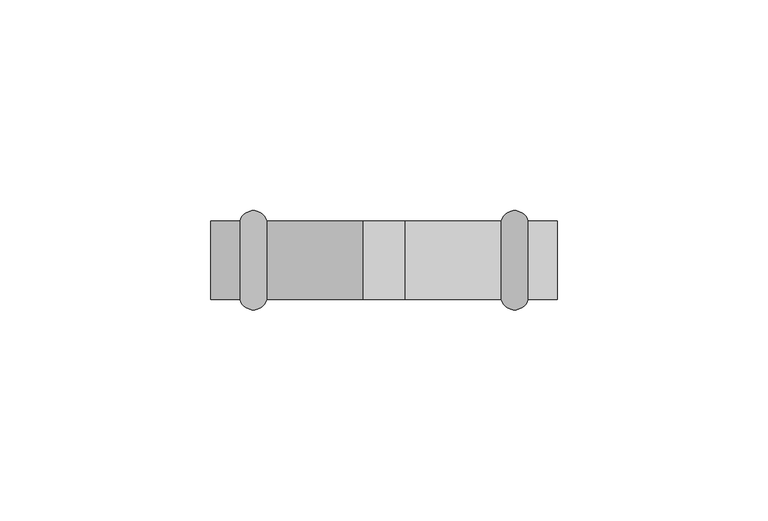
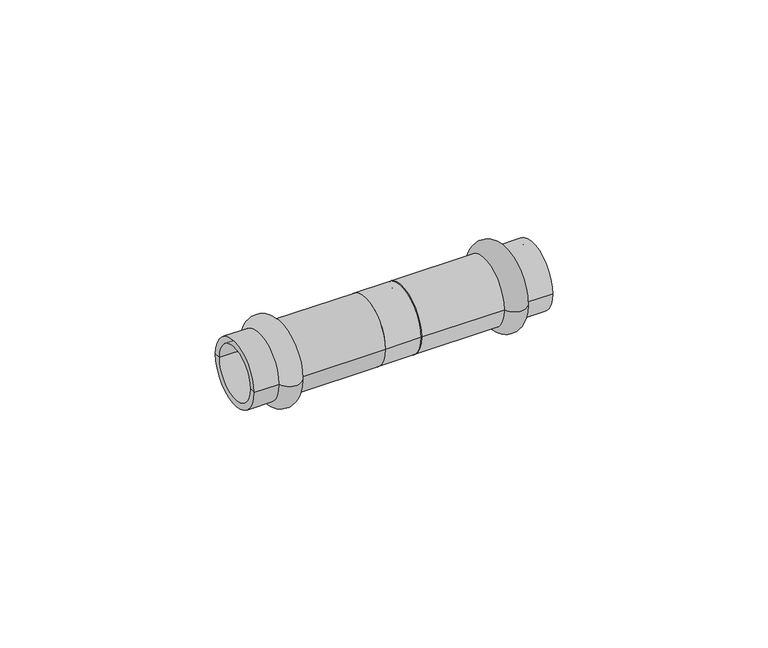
"""IFC4 building model written with IfcOpenShell, lengths in millimetres: pipe fitting geometry, VALTEC_VTi.904.I_Удлинитель_Нержавеющая сталь : VTi.904.I."""

import ifcopenshell
import ifcopenshell.guid

model = None  # the IFC model being written
_history = None  # IfcOwnerHistory: only IFC2X3 demands one
_inside = {}  # id of a spatial element -> (the spatial element, [elements in it])
_under = {}  # id of a project, library or spatial element -> (it, [spatial elements below it])
_declared = {}  # id of a project -> (the project, [libraries it declares])
_typed = {}  # id of a type object -> (the type object, [elements of that type])
_made_of = {}  # id of a material, layer set ... -> (it, [elements and type objects made of it])


def new_model(schema):
    """Start an empty IFC model of exactly this schema.

    Asked for "IFC4X3", IfcOpenShell would pick the latest addendum, in which some entities
    have other attributes; the version numbers below select the first issue.
    IFC2X3 requires an IfcOwnerHistory on every rooted entity: one is made here for all.
    """
    global model, _history
    if schema == "IFC4X3":
        model = ifcopenshell.file(schema_version=(4, 3, 0, 0))
    else:
        model = ifcopenshell.file(schema=schema)
    _inside.clear()
    _under.clear()
    _declared.clear()
    _typed.clear()
    _made_of.clear()
    _history = None
    if model.schema == "IFC2X3":
        org = make("IfcOrganization", Name="unknown")
        user = make(
            "IfcPersonAndOrganization",
            ThePerson=make("IfcPerson", FamilyName="unknown"),
            TheOrganization=org,
        )
        app = make(
            "IfcApplication",
            ApplicationDeveloper=org,
            Version="unknown",
            ApplicationFullName="unknown",
            ApplicationIdentifier="unknown",
        )
        _history = make(
            "IfcOwnerHistory",
            OwningUser=user,
            OwningApplication=app,
            ChangeAction="ADDED",
            CreationDate=0,
        )
    return model


def make(cls, **values):
    """One entity of the class cls with the attributes given. An attribute that is None is left unset."""
    return model.create_entity(
        cls, **{name: value for name, value in values.items() if value is not None}
    )


def rooted(cls, **values):
    """An entity with a GlobalId (a new one), such as an element, a storey or a relation."""
    return make(cls, GlobalId=ifcopenshell.guid.new(), OwnerHistory=_history, **values)


def si_unit(unit_type, name, prefix=None):
    """IfcSIUnit, for example si_unit("LENGTHUNIT", "METRE", prefix="MILLI")."""
    return make("IfcSIUnit", UnitType=unit_type, Prefix=prefix, Name=name)


def assignment(units):
    """IfcUnitAssignment: the units of a project."""
    return None if units is None else make("IfcUnitAssignment", Units=units)


def point(xyz):
    """IfcCartesianPoint."""
    return None if xyz is None else make("IfcCartesianPoint", Coordinates=xyz)


def direction(xyz):
    """IfcDirection."""
    return None if xyz is None else make("IfcDirection", DirectionRatios=xyz)


def frame(location, z_axis=None, x_axis=None):
    """IfcAxis2Placement3D, a coordinate frame: its origin and axes. An axis left out is left unset."""
    return make(
        "IfcAxis2Placement3D",
        Location=point(location),
        Axis=direction(z_axis),
        RefDirection=direction(x_axis),
    )


def frame_2d(location, x_axis=None):
    """IfcAxis2Placement2D, a coordinate frame in the plane: its origin and x axis."""
    return make(
        "IfcAxis2Placement2D", Location=point(location), RefDirection=direction(x_axis)
    )


def origin():
    """The frame at (0, 0, 0) with its axes left unset."""
    return frame((0.0, 0.0, 0.0))


def origin_2d():
    """The frame at (0, 0) in the plane with its x axis left unset."""
    return frame_2d((0.0, 0.0))


def place(relative_to, where):
    """IfcLocalPlacement: puts the frame where relative to a parent placement (None: the world)."""
    return make(
        "IfcLocalPlacement", PlacementRelTo=relative_to, RelativePlacement=where
    )


def context(
    kind, dimensions, precision=None, world=None, true_north=None, identifier=None
):
    """IfcGeometricRepresentationContext, for example the 3D "Model" context."""
    return make(
        "IfcGeometricRepresentationContext",
        ContextIdentifier=identifier,
        ContextType=kind,
        CoordinateSpaceDimension=dimensions,
        Precision=precision,
        WorldCoordinateSystem=world,
        TrueNorth=true_north,
    )


def project(units=None, contexts=None):
    """IfcProject with its units and contexts."""
    return rooted(
        "IfcProject",
        Name="project",
        RepresentationContexts=contexts,
        UnitsInContext=assignment(units),
    )


def spatial(cls, under=None, at=None, **own):
    """A site, building, storey or space (cls), placed at a placement, below another one or the project."""
    s = rooted(cls, ObjectPlacement=at, **own)
    if under is not None:
        _under.setdefault(under.id(), (under, []))[1].append(s)
    return s


def polyline(points):
    """IfcPolyline through the points."""
    return make("IfcPolyline", Points=[point(p) for p in points])


def circle_curve(where, radius):
    """IfcCircle in the frame where."""
    return make("IfcCircle", Position=where, Radius=radius)


def ellipse_curve(where, semi_axis1, semi_axis2):
    """IfcEllipse in the frame where."""
    return make(
        "IfcEllipse", Position=where, SemiAxis1=semi_axis1, SemiAxis2=semi_axis2
    )


def trimmed(basis, trim1, trim2, sense, master):
    """IfcTrimmedCurve: the piece of a basis curve between two trims."""
    return make(
        "IfcTrimmedCurve",
        BasisCurve=basis,
        Trim1=trim1,
        Trim2=trim2,
        SenseAgreement=sense,
        MasterRepresentation=master,
    )


def segment(curve, same_sense, transition):
    """IfcCompositeCurveSegment."""
    return make(
        "IfcCompositeCurveSegment",
        Transition=transition,
        SameSense=same_sense,
        ParentCurve=curve,
    )


def composite_curve(segments, self_intersect=None):
    """IfcCompositeCurve: segments joined end to end."""
    return make("IfcCompositeCurve", Segments=segments, SelfIntersect=self_intersect)


def outline(outer, holes=None, kind="AREA"):
    """IfcArbitraryClosedProfileDef: a profile drawn as a closed curve; with holes, ...WithVoids."""
    if holes is None:
        return make("IfcArbitraryClosedProfileDef", ProfileType=kind, OuterCurve=outer)
    return make(
        "IfcArbitraryProfileDefWithVoids",
        ProfileType=kind,
        OuterCurve=outer,
        InnerCurves=holes,
    )


def extrude(swept, where, along, depth):
    """IfcExtrudedAreaSolid: the profile swept, set in the frame where, extruded along a direction by depth."""
    return make(
        "IfcExtrudedAreaSolid",
        SweptArea=swept,
        Position=where,
        ExtrudedDirection=direction(along),
        Depth=depth,
    )


def shape(context_of_items, identifier, shape_type, items):
    """IfcShapeRepresentation: the items that make up one representation, for example the "Body"."""
    return make(
        "IfcShapeRepresentation",
        ContextOfItems=context_of_items,
        RepresentationIdentifier=identifier,
        RepresentationType=shape_type,
        Items=items,
    )


def source(mapping_origin, context_of_items, identifier, shape_type, items):
    """IfcRepresentationMap: a shape defined once, which mapped items show again and again."""
    return make(
        "IfcRepresentationMap",
        MappingOrigin=mapping_origin,
        MappedRepresentation=shape(context_of_items, identifier, shape_type, items),
    )


def transform(
    local_origin,
    x_axis=None,
    y_axis=None,
    z_axis=None,
    scale=None,
    scale2=None,
    scale3=None,
    uniform=True,
):
    """IfcCartesianTransformationOperator3D, or its non-uniform kind. x_axis, y_axis, z_axis: its Axis1, 2, 3."""
    if uniform:
        return make(
            "IfcCartesianTransformationOperator3D",
            Axis1=direction(x_axis),
            Axis2=direction(y_axis),
            LocalOrigin=point(local_origin),
            Scale=scale,
            Axis3=direction(z_axis),
        )
    return make(
        "IfcCartesianTransformationOperator3DnonUniform",
        Axis1=direction(x_axis),
        Axis2=direction(y_axis),
        LocalOrigin=point(local_origin),
        Scale=scale,
        Axis3=direction(z_axis),
        Scale2=scale2,
        Scale3=scale3,
    )


def mapped(mapping_source, mapping_target):
    """IfcMappedItem: shows the shape of a source again, moved by a transform."""
    return make(
        "IfcMappedItem", MappingSource=mapping_source, MappingTarget=mapping_target
    )


def made_of(thing, what):
    """Note that an element or type object is made of a material, layer set ...; save() writes the relation."""
    if what is not None:
        _made_of.setdefault(what.id(), (what, []))[1].append(thing)
    return thing


def element(
    cls,
    number,
    at=None,
    inside=None,
    cuts=None,
    type_object=None,
    material=None,
    context=None,
    identifier="Body",
    shape_type=None,
    held_by="IfcProductDefinitionShape",
    body=None,
    shapes=None,
    **own,
):
    """One element of the class cls, such as IfcWall. Its Tag is "e" and its number.

    at: its placement. inside: the storey or other place that contains it. cuts: it is an
    opening in that element (IfcRelVoidsElement). A single representation is given by context,
    identifier, shape_type and body (its items); several are given by shapes. held_by: the class
    of the entity that holds the representations. save() writes the other relations.
    """
    e = rooted(cls, Tag="e%d" % number, ObjectPlacement=at, **own)
    if body is not None:
        shapes = [shape(context, identifier, shape_type, body)]
    if shapes is not None:
        e.Representation = make(held_by, Representations=shapes)
    if inside is not None:
        _inside.setdefault(inside.id(), (inside, []))[1].append(e)
    if cuts is not None:
        rooted(
            "IfcRelVoidsElement", RelatingBuildingElement=cuts, RelatedOpeningElement=e
        )
    if type_object is not None:
        _typed.setdefault(type_object.id(), (type_object, []))[1].append(e)
    return made_of(e, material)


def aggregate(whole, parts):
    """IfcRelAggregates: a whole, such as a stair, and the parts it consists of."""
    return rooted("IfcRelAggregates", RelatingObject=whole, RelatedObjects=parts)


def save(model, path):
    """Write the relations noted so far, then the file.

    IfcRelAggregates (storeys below a building ...), IfcRelContainedInSpatialStructure (elements
    in a storey), IfcRelDefinesByType, IfcRelAssociatesMaterial and IfcRelDeclares: one each for
    every whole, place, type object, material and project.
    """
    for whole, parts in _under.values():
        aggregate(whole, parts)
    for where, things in _inside.values():
        rooted(
            "IfcRelContainedInSpatialStructure",
            RelatedElements=things,
            RelatingStructure=where,
        )
    for kind, things in _typed.values():
        rooted("IfcRelDefinesByType", RelatedObjects=things, RelatingType=kind)
    for what, things in _made_of.values():
        rooted("IfcRelAssociatesMaterial", RelatedObjects=things, RelatingMaterial=what)
    for by, libraries in _declared.values():
        rooted("IfcRelDeclares", RelatingContext=by, RelatedDefinitions=libraries)
    model.write(path)


def plane_surface(at):
    """IfcPlane: the flat surface through the origin of the frame at, square to its z axis."""
    return make("IfcPlane", Position=at)


def cylinder_surface(at, radius):
    """IfcCylindricalSurface: all points at the distance radius from the z axis of the frame at."""
    return make("IfcCylindricalSurface", Position=at, Radius=radius)


def revolved_surface(curve, axis_point, axis_direction):
    """IfcSurfaceOfRevolution: the curve turned about the line through axis_point along axis_direction."""
    return make(
        "IfcSurfaceOfRevolution",
        SweptCurve=make("IfcArbitraryOpenProfileDef", ProfileType="CURVE", Curve=curve),
        AxisPosition=make("IfcAxis1Placement", Location=point(axis_point), Axis=direction(axis_direction)),
    )


def advanced_brep(points, edges, surfaces, faces):
    """IfcAdvancedBrep: a solid bounded by faces that lie on surfaces and meet in shared edges.

    An edge is (start, end): straight between two places in points (the first is 0);
    or (start, end, curve); or (start, end, curve, False) where it runs against its curve.
    A face is (place in surfaces, loops), or (place, loops, False) where it looks against
    its surface's normal. A loop lists edges by number (the first is 1), with a minus sign
    where the edge is run from its end to its start. The first loop is the outer one.
    """
    corners = [point(p) for p in points]
    vertices = [make("IfcVertexPoint", VertexGeometry=c) for c in corners]
    made = []
    for start, end, *more in edges:
        made.append(
            make(
                "IfcEdgeCurve",
                EdgeStart=vertices[start],
                EdgeEnd=vertices[end],
                EdgeGeometry=more[0] if more else make("IfcPolyline", Points=[corners[start], corners[end]]),
                SameSense=more[1] if len(more) > 1 else True,
            )
        )
    hull = []
    for where, loops, *sense in faces:
        bounds = []
        for j, loop in enumerate(loops):
            ring = [make("IfcOrientedEdge", EdgeElement=made[abs(k) - 1], Orientation=k > 0) for k in loop]
            bounds.append(
                make(
                    "IfcFaceOuterBound" if j == 0 else "IfcFaceBound",
                    Bound=make("IfcEdgeLoop", EdgeList=ring),
                    Orientation=True,
                )
            )
        hull.append(make("IfcAdvancedFace", Bounds=bounds, FaceSurface=surfaces[where], SameSense=sense[0] if sense else True))
    return make("IfcAdvancedBrep", Outer=make("IfcClosedShell", CfsFaces=hull))


def pipe_fitting_fd4802b1(model_context):
    return source(origin(), model_context, "Body", "SolidModel", [
        advanced_brep(
        [(34.1122777, -9.25, 0.0), (27.7877223, -9.25, 0.0), (27.7877223, 9.25, 0.0), (34.1122777, 9.25, 0.0), (41.0, -9.25, 0.0), (41.0, 9.25, 0.0), (41.0, -7.5, 0.0), (41.0, 7.5, 0.0), (5.0, -7.5, 0.0), (5.0, 7.5, 0.0), (5.0, -9.25, 0.0), (5.0, 9.25, 0.0)],
        [
            (0, 1, circle_curve(frame((30.95, -8.5, 0.0), z_axis=(0.0, 0.0, -1.0), x_axis=(-1.0, 0.0, 0.0)), 3.25)),
            (1, 2, circle_curve(frame((27.7877223, 0.0, 0.0), z_axis=(1.0, 0.0, 0.0), x_axis=(0.0, 1.0, 0.0)), 9.25)),
            (2, 3, circle_curve(frame((30.95, 8.5, 0.0), z_axis=(0.0, 0.0, -1.0), x_axis=(-1.0, 0.0, 0.0)), 3.25)),
            (3, 0, circle_curve(frame((34.1122777, 0.0, 0.0), z_axis=(-1.0, 0.0, 0.0), x_axis=(0.0, 1.0, 0.0)), 9.25)),
            (2, 1, circle_curve(frame((27.7877223, 0.0, 0.0), z_axis=(1.0, 0.0, 0.0), x_axis=(0.0, 1.0, 0.0)), 9.25)),
            (0, 3, circle_curve(frame((34.1122777, 0.0, 0.0), z_axis=(-1.0, 0.0, 0.0), x_axis=(0.0, 1.0, 0.0)), 9.25)),
            (4, 0),
            (3, 5),
            (5, 4, circle_curve(frame((41.0, 0.0, 0.0), z_axis=(-1.0, 0.0, 0.0), x_axis=(0.0, 1.0, 0.0)), 9.25)),
            (4, 5, circle_curve(frame((41.0, 0.0, 0.0), z_axis=(-1.0, 0.0, 0.0), x_axis=(0.0, 1.0, 0.0)), 9.25)),
            (6, 4),
            (5, 7),
            (7, 6, circle_curve(frame((41.0, 0.0, 0.0), z_axis=(-1.0, 0.0, 0.0), x_axis=(0.0, 1.0, 0.0)), 7.5)),
            (6, 7, circle_curve(frame((41.0, 0.0, 0.0), z_axis=(-1.0, 0.0, 0.0), x_axis=(0.0, 1.0, 0.0)), 7.5)),
            (8, 6),
            (7, 9),
            (9, 8, circle_curve(frame((5.0, 0.0, 0.0), z_axis=(-1.0, 0.0, 0.0), x_axis=(0.0, 1.0, 0.0)), 7.5)),
            (8, 9, circle_curve(frame((5.0, 0.0, 0.0), z_axis=(-1.0, 0.0, 0.0), x_axis=(0.0, 1.0, 0.0)), 7.5)),
            (10, 8),
            (9, 11),
            (11, 10, circle_curve(frame((5.0, 0.0, 0.0), z_axis=(-1.0, 0.0, 0.0), x_axis=(0.0, 1.0, 0.0)), 9.25)),
            (10, 11, circle_curve(frame((5.0, 0.0, 0.0), z_axis=(-1.0, 0.0, 0.0), x_axis=(0.0, 1.0, 0.0)), 9.25)),
            (1, 10),
            (11, 2),
        ],
        [
            revolved_surface(trimmed(ellipse_curve(frame((30.95, 8.5, 0.0), z_axis=(0.0, 0.0, -1.0), x_axis=(-1.0, 0.0, 0.0)), 3.25, 3.25), [point((27.7877223, 9.25, 0.0))], [point((34.1122777, 9.25, 0.0))], True, "CARTESIAN"), (44.5364426, 0.0, 0.0), (1.0, 0.0, 0.0)),
            cylinder_surface(frame((44.5364426, 0.0, 0.0), z_axis=(1.0, 0.0, 0.0), x_axis=(0.0, 1.0, 0.0)), 9.25),
            plane_surface(frame((41.0, 0.0, 0.0), z_axis=(1.0, 0.0, 0.0), x_axis=(0.0, 1.0, 0.0))),
            revolved_surface(polyline([(41.0, 7.5, 0.0), (5.0, 7.5, 0.0)]), (44.5364426, 0.0, 0.0), (1.0, 0.0, 0.0)),
            plane_surface(frame((5.0, 0.0, 0.0), z_axis=(-1.0, 0.0, 0.0), x_axis=(0.0, 1.0, 0.0))),
        ],
        [
            (0, [[1, 2, 3, 4]]),
            (0, [[-3, 5, -1, 6]]),
            (1, [[7, -4, 8, 9]]),
            (1, [[-8, -6, -7, 10]]),
            (2, [[11, -9, 12, 13]]),
            (2, [[-12, -10, -11, 14]]),
            (3, [[15, -13, 16, 17]]),
            (3, [[-16, -14, -15, 18]]),
            (4, [[19, -17, 20, 21]]),
            (4, [[-20, -18, -19, 22]]),
            (1, [[23, -21, 24, -2]]),
            (1, [[-24, -22, -23, -5]]),
        ],
    ),
        advanced_brep(
        [(-34.1122777, -9.25, 0.0), (-34.1122777, 9.25, 0.0), (-27.7877223, 9.25, 0.0), (-27.7877223, -9.25, 0.0), (-41.0, -9.25, 0.0), (-41.0, 9.25, 0.0), (-41.0, -7.5, 0.0), (-41.0, 7.5, 0.0), (-5.0, -7.5, 0.0), (-5.0, 7.5, 0.0), (-5.0, -9.25, 0.0), (-5.0, 9.25, 0.0)],
        [
            (0, 1, circle_curve(frame((-34.1122777, 0.0, 0.0), z_axis=(1.0, 0.0, 0.0), x_axis=(0.0, 1.0, 0.0)), 9.25)),
            (1, 2, circle_curve(frame((-30.95, 8.5, 0.0), z_axis=(0.0, 0.0, -1.0), x_axis=(1.0, 0.0, 0.0)), 3.25)),
            (2, 3, circle_curve(frame((-27.7877223, 0.0, 0.0), z_axis=(-1.0, 0.0, 0.0), x_axis=(0.0, 1.0, 0.0)), 9.25)),
            (3, 0, circle_curve(frame((-30.95, -8.5, 0.0), z_axis=(0.0, 0.0, -1.0), x_axis=(1.0, 0.0, 0.0)), 3.25)),
            (1, 0, circle_curve(frame((-34.1122777, 0.0, 0.0), z_axis=(1.0, 0.0, 0.0), x_axis=(0.0, 1.0, 0.0)), 9.25)),
            (3, 2, circle_curve(frame((-27.7877223, 0.0, 0.0), z_axis=(-1.0, 0.0, 0.0), x_axis=(0.0, 1.0, 0.0)), 9.25)),
            (4, 5, circle_curve(frame((-41.0, 0.0, 0.0), z_axis=(1.0, 0.0, 0.0), x_axis=(0.0, 1.0, 0.0)), 9.25)),
            (5, 1),
            (0, 4),
            (5, 4, circle_curve(frame((-41.0, 0.0, 0.0), z_axis=(1.0, 0.0, 0.0), x_axis=(0.0, 1.0, 0.0)), 9.25)),
            (6, 7, circle_curve(frame((-41.0, 0.0, 0.0), z_axis=(1.0, 0.0, 0.0), x_axis=(0.0, 1.0, 0.0)), 7.5)),
            (7, 5),
            (4, 6),
            (7, 6, circle_curve(frame((-41.0, 0.0, 0.0), z_axis=(1.0, 0.0, 0.0), x_axis=(0.0, 1.0, 0.0)), 7.5)),
            (8, 9, circle_curve(frame((-5.0, 0.0, 0.0), z_axis=(1.0, 0.0, 0.0), x_axis=(0.0, 1.0, 0.0)), 7.5)),
            (9, 7),
            (6, 8),
            (9, 8, circle_curve(frame((-5.0, 0.0, 0.0), z_axis=(1.0, 0.0, 0.0), x_axis=(0.0, 1.0, 0.0)), 7.5)),
            (10, 11, circle_curve(frame((-5.0, 0.0, 0.0), z_axis=(1.0, 0.0, 0.0), x_axis=(0.0, 1.0, 0.0)), 9.25)),
            (11, 9),
            (8, 10),
            (11, 10, circle_curve(frame((-5.0, 0.0, 0.0), z_axis=(1.0, 0.0, 0.0), x_axis=(0.0, 1.0, 0.0)), 9.25)),
            (2, 11),
            (10, 3),
        ],
        [
            revolved_surface(trimmed(ellipse_curve(frame((-30.95, 8.5, 0.0), z_axis=(0.0, 0.0, 1.0), x_axis=(1.0, 0.0, 0.0)), 3.25, 3.25), [point((-27.7877223, 9.25, 0.0))], [point((-34.1122777, 9.25, 0.0))], True, "CARTESIAN"), (-44.5364426, 0.0, 0.0), (-1.0, 0.0, 0.0)),
            cylinder_surface(frame((-44.5364426, 0.0, 0.0), z_axis=(-1.0, 0.0, 0.0), x_axis=(0.0, 1.0, 0.0)), 9.25),
            plane_surface(frame((-41.0, 0.0, 0.0), z_axis=(-1.0, 0.0, 0.0), x_axis=(0.0, 1.0, 0.0))),
            revolved_surface(polyline([(-41.0, 7.5, 0.0), (-5.0, 7.5, 0.0)]), (-44.5364426, 0.0, 0.0), (-1.0, 0.0, 0.0)),
            plane_surface(frame((-5.0, 0.0, 0.0), z_axis=(1.0, 0.0, 0.0), x_axis=(0.0, 1.0, 0.0))),
        ],
        [
            (0, [[1, 2, 3, 4]]),
            (0, [[5, -4, 6, -2]]),
            (1, [[7, 8, -1, 9]]),
            (1, [[10, -9, -5, -8]]),
            (2, [[11, 12, -7, 13]]),
            (2, [[14, -13, -10, -12]]),
            (3, [[15, 16, -11, 17]]),
            (3, [[18, -17, -14, -16]]),
            (4, [[19, 20, -15, 21]]),
            (4, [[22, -21, -18, -20]]),
            (1, [[-3, 23, -19, 24]]),
            (1, [[-6, -24, -22, -23]]),
        ],
    ),
        extrude(outline(composite_curve([segment(trimmed(circle_curve(origin_2d(), 9.25), [point((-9.25, 0.0))], [point((9.25, 0.0))], False, "CARTESIAN"), True, "CONTINUOUS"), segment(trimmed(circle_curve(origin_2d(), 9.25), [point((9.25, 0.0))], [point((-9.25, 0.0))], False, "CARTESIAN"), True, "CONTINUOUS")], self_intersect=False), holes=[composite_curve([segment(trimmed(circle_curve(origin_2d(), 7.5), [point((-7.5, 0.0))], [point((7.5, 0.0))], True, "CARTESIAN"), True, "CONTINUOUS"), segment(trimmed(circle_curve(origin_2d(), 7.5), [point((7.5, 0.0))], [point((-7.5, 0.0))], True, "CARTESIAN"), True, "CONTINUOUS")], self_intersect=False)]), frame((-5.0, 0.0, 0.0), z_axis=(1.0, 0.0, 0.0), x_axis=(0.0, 1.0, 0.0)), (0.0, 0.0, 1.0), 10.0),
    ])


if __name__ == "__main__":
    model = new_model("IFC4")
    model_context = context("Model", 3, world=origin())
    ifc_project = project(units=[si_unit("LENGTHUNIT", "METRE", prefix="MILLI")], contexts=[model_context])
    site = spatial("IfcSite", under=ifc_project)
    building = spatial("IfcBuilding", under=site)
    placement = place(None, origin())
    pipe_fitting_shape = pipe_fitting_fd4802b1(model_context)
    element("IfcPipeFitting", 1, ObjectType="VALTEC_VTi.904.I_Удлинитель_Нержавеющая сталь : VTi.904.I", at=placement, inside=building, context=model_context, shape_type="MappedRepresentation", body=[
        mapped(pipe_fitting_shape, transform((0.0, 0.0, 0.0), x_axis=(1.0, 0.0, 0.0), y_axis=(0.0, 1.0, 0.0), z_axis=(0.0, 0.0, 1.0))),
    ])
    save(model, "model.ifc")
